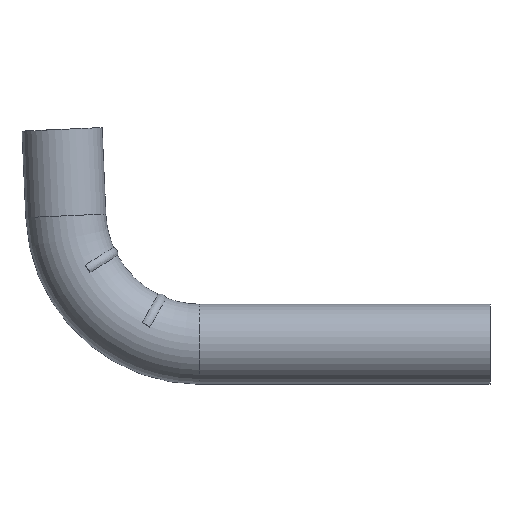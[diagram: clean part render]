
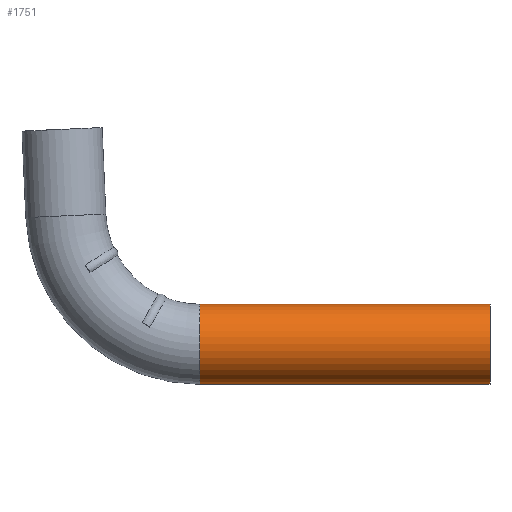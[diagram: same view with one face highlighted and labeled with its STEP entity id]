
A CAD part, top view. The second image highlights one B-rep face of the part: STEP entity #1751.
In plain terms, the highlighted cylindrical face has radius 62.5 mm (diameter 125 mm), a partial arc.
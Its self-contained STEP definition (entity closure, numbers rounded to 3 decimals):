
#322 = DIRECTION ( 'NONE',  ( 1., 0., 0. ) ) ;
#350 = CARTESIAN_POINT ( 'NONE',  ( -113.516, 44.935, 0. ) ) ;
#451 = LINE ( 'NONE', #3796, #1881 ) ;
#788 = EDGE_CURVE ( 'NONE', #865, #2177, #2109, .T. ) ;
#865 = VERTEX_POINT ( 'NONE', #2685 ) ;
#906 = CYLINDRICAL_SURFACE ( 'NONE', #2178, 62.5 ) ;
#933 = DIRECTION ( 'NONE',  ( 1., 0., 0. ) ) ;
#1110 = CIRCLE ( 'NONE', #4153, 62.5 ) ;
#1176 = EDGE_CURVE ( 'NONE', #865, #2966, #1110, .T. ) ;
#1288 = CARTESIAN_POINT ( 'NONE',  ( -565.887, -17.565, 0. ) ) ;
#1580 = ORIENTED_EDGE ( 'NONE', *, *, #3699, .F. ) ;
#1625 = ORIENTED_EDGE ( 'NONE', *, *, #3793, .T. ) ;
#1751 = ADVANCED_FACE ( 'NONE', ( #4201 ), #906, .T. ) ;
#1881 = VECTOR ( 'NONE', #2107, 1000. ) ;
#1982 = DIRECTION ( 'NONE',  ( 0., 0., -1. ) ) ;
#2107 = DIRECTION ( 'NONE',  ( 1., 0., 0. ) ) ;
#2109 = LINE ( 'NONE', #2960, #3454 ) ;
#2177 = VERTEX_POINT ( 'NONE', #350 ) ;
#2178 = AXIS2_PLACEMENT_3D ( 'NONE', #1288, #933, #3361 ) ;
#2262 = VERTEX_POINT ( 'NONE', #2917 ) ;
#2390 = CARTESIAN_POINT ( 'NONE',  ( -113.516, -17.565, 0. ) ) ;
#2621 = CARTESIAN_POINT ( 'NONE',  ( -565.887, -80.065, 0. ) ) ;
#2685 = CARTESIAN_POINT ( 'NONE',  ( -565.887, 44.935, 0. ) ) ;
#2746 = CIRCLE ( 'NONE', #3186, 62.5 ) ;
#2917 = CARTESIAN_POINT ( 'NONE',  ( -113.516, -80.065, 0. ) ) ;
#2960 = CARTESIAN_POINT ( 'NONE',  ( -565.887, 44.935, 0. ) ) ;
#2966 = VERTEX_POINT ( 'NONE', #2621 ) ;
#3172 = ORIENTED_EDGE ( 'NONE', *, *, #788, .F. ) ;
#3186 = AXIS2_PLACEMENT_3D ( 'NONE', #2390, #322, #1982 ) ;
#3361 = DIRECTION ( 'NONE',  ( 0., 1., 0. ) ) ;
#3417 = EDGE_LOOP ( 'NONE', ( #4297, #1625, #1580, #3172 ) ) ;
#3454 = VECTOR ( 'NONE', #5089, 1000. ) ;
#3455 = DIRECTION ( 'NONE',  ( 0., 0., -1. ) ) ;
#3699 = EDGE_CURVE ( 'NONE', #2177, #2262, #2746, .T. ) ;
#3793 = EDGE_CURVE ( 'NONE', #2966, #2262, #451, .T. ) ;
#3796 = CARTESIAN_POINT ( 'NONE',  ( -565.887, -80.065, 0. ) ) ;
#4153 = AXIS2_PLACEMENT_3D ( 'NONE', #4221, #4699, #3455 ) ;
#4201 = FACE_OUTER_BOUND ( 'NONE', #3417, .T. ) ;
#4221 = CARTESIAN_POINT ( 'NONE',  ( -565.887, -17.565, 0. ) ) ;
#4297 = ORIENTED_EDGE ( 'NONE', *, *, #1176, .T. ) ;
#4699 = DIRECTION ( 'NONE',  ( 1., 0., 0. ) ) ;
#5089 = DIRECTION ( 'NONE',  ( 1., 0., 0. ) ) ;
